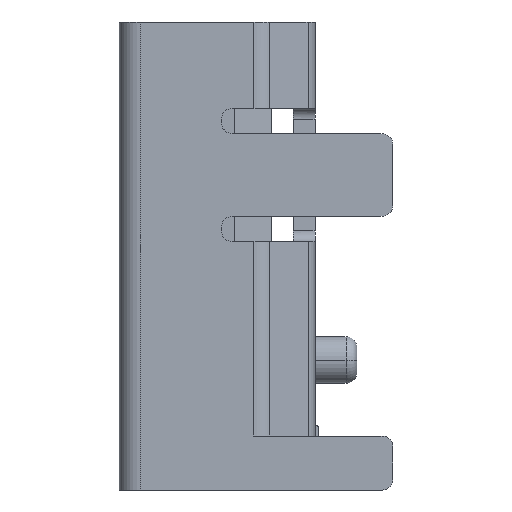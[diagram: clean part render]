
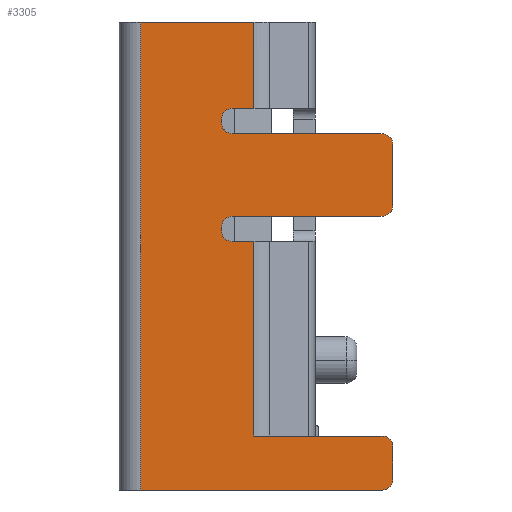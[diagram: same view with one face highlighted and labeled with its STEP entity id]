
A CAD part, left-side view. The second image highlights one B-rep face of the part: STEP entity #3305.
In plain terms, the highlighted planar face has unit normal (-1, 0, 0).
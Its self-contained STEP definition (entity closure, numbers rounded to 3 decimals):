
#1221=CARTESIAN_POINT('Line Origine',(-1.573,-1.176,-5.75)) ;
#1225=CARTESIAN_POINT('Vertex',(-1.573,-0.287,-5.75)) ;
#1227=CARTESIAN_POINT('Vertex',(-1.573,-2.065,-5.75)) ;
#1266=CARTESIAN_POINT('Axis2P3D Location',(-1.573,-2.065,-5.9)) ;
#1270=CARTESIAN_POINT('Vertex',(-1.573,-2.215,-5.9)) ;
#1290=CARTESIAN_POINT('Line Origine',(-1.573,-2.215,-6.125)) ;
#1294=CARTESIAN_POINT('Vertex',(-1.573,-2.215,-6.35)) ;
#1314=CARTESIAN_POINT('Axis2P3D Location',(-1.573,-2.065,-6.35)) ;
#1318=CARTESIAN_POINT('Vertex',(-1.573,-2.065,-6.5)) ;
#1338=CARTESIAN_POINT('Axis2P3D Location',(-1.573,0.015,-1.35)) ;
#1342=CARTESIAN_POINT('Vertex',(-1.573,0.015,-1.2)) ;
#1344=CARTESIAN_POINT('Vertex',(-1.573,0.165,-1.35)) ;
#1391=CARTESIAN_POINT('Vertex',(-1.573,0.015,-2.7)) ;
#1394=CARTESIAN_POINT('Axis2P3D Location',(-1.573,0.015,-2.85)) ;
#1398=CARTESIAN_POINT('Vertex',(-1.573,0.165,-2.85)) ;
#1433=CARTESIAN_POINT('Vertex',(-1.573,0.165,-1.4)) ;
#1436=CARTESIAN_POINT('Axis2P3D Location',(-1.573,0.015,-1.4)) ;
#1440=CARTESIAN_POINT('Vertex',(-1.573,0.015,-1.55)) ;
#1471=CARTESIAN_POINT('Vertex',(-1.573,-2.065,-2.7)) ;
#1474=CARTESIAN_POINT('Line Origine',(-1.573,-1.025,-2.7)) ;
#1491=CARTESIAN_POINT('Line Origine',(-1.573,-1.025,-1.55)) ;
#1495=CARTESIAN_POINT('Vertex',(-1.573,-2.065,-1.55)) ;
#1522=CARTESIAN_POINT('Axis2P3D Location',(-1.573,-2.065,-1.7)) ;
#1526=CARTESIAN_POINT('Vertex',(-1.573,-2.215,-1.7)) ;
#1553=CARTESIAN_POINT('Line Origine',(-1.573,-2.215,-2.125)) ;
#1557=CARTESIAN_POINT('Vertex',(-1.573,-2.215,-2.55)) ;
#1584=CARTESIAN_POINT('Axis2P3D Location',(-1.573,-2.065,-2.55)) ;
#1619=CARTESIAN_POINT('Vertex',(-1.573,0.165,-2.9)) ;
#1622=CARTESIAN_POINT('Axis2P3D Location',(-1.573,0.015,-2.9)) ;
#1626=CARTESIAN_POINT('Vertex',(-1.573,0.015,-3.05)) ;
#2271=CARTESIAN_POINT('Line Origine',(-1.573,-0.136,-1.2)) ;
#2275=CARTESIAN_POINT('Vertex',(-1.573,-0.287,-1.2)) ;
#2367=CARTESIAN_POINT('Line Origine',(-1.573,-0.136,-3.05)) ;
#2371=CARTESIAN_POINT('Vertex',(-1.573,-0.287,-3.05)) ;
#3222=CARTESIAN_POINT('Vertex',(-1.573,1.285,0.)) ;
#3229=CARTESIAN_POINT('Vertex',(-1.573,1.285,-6.5)) ;
#3232=CARTESIAN_POINT('Line Origine',(-1.573,1.285,-6.5)) ;
#3244=CARTESIAN_POINT('Axis2P3D Location',(-1.573,1.285,-6.5)) ;
#3249=CARTESIAN_POINT('Line Origine',(-1.573,0.165,-2.875)) ;
#3254=CARTESIAN_POINT('Line Origine',(-1.573,0.165,-1.375)) ;
#3259=CARTESIAN_POINT('Line Origine',(-1.573,-0.287,-0.6)) ;
#3263=CARTESIAN_POINT('Vertex',(-1.573,-0.287,0.)) ;
#3266=CARTESIAN_POINT('Line Origine',(-1.573,0.499,0.)) ;
#3271=CARTESIAN_POINT('Line Origine',(-1.573,-0.39,-6.5)) ;
#3276=CARTESIAN_POINT('Line Origine',(-1.573,-0.287,-4.4)) ;
#1222=DIRECTION('Vector Direction',(0.,-1.,0.)) ;
#1267=DIRECTION('Axis2P3D Direction',(-1.,0.,0.)) ;
#1291=DIRECTION('Vector Direction',(0.,0.,-1.)) ;
#1315=DIRECTION('Axis2P3D Direction',(-1.,0.,0.)) ;
#1339=DIRECTION('Axis2P3D Direction',(1.,0.,0.)) ;
#1395=DIRECTION('Axis2P3D Direction',(1.,0.,0.)) ;
#1437=DIRECTION('Axis2P3D Direction',(1.,0.,0.)) ;
#1475=DIRECTION('Vector Direction',(0.,1.,0.)) ;
#1492=DIRECTION('Vector Direction',(0.,-1.,0.)) ;
#1523=DIRECTION('Axis2P3D Direction',(-1.,0.,0.)) ;
#1554=DIRECTION('Vector Direction',(0.,0.,-1.)) ;
#1585=DIRECTION('Axis2P3D Direction',(-1.,0.,0.)) ;
#1623=DIRECTION('Axis2P3D Direction',(-1.,0.,0.)) ;
#2272=DIRECTION('Vector Direction',(0.,-1.,0.)) ;
#2368=DIRECTION('Vector Direction',(0.,-1.,0.)) ;
#3233=DIRECTION('Vector Direction',(0.,0.,1.)) ;
#3245=DIRECTION('Axis2P3D Direction',(-1.,0.,0.)) ;
#3246=DIRECTION('Axis2P3D XDirection',(0.,-1.,0.)) ;
#3250=DIRECTION('Vector Direction',(0.,0.,-1.)) ;
#3255=DIRECTION('Vector Direction',(0.,0.,-1.)) ;
#3260=DIRECTION('Vector Direction',(0.,0.,1.)) ;
#3267=DIRECTION('Vector Direction',(0.,-1.,0.)) ;
#3272=DIRECTION('Vector Direction',(0.,-1.,0.)) ;
#3277=DIRECTION('Vector Direction',(0.,0.,1.)) ;
#1268=AXIS2_PLACEMENT_3D('Circle Axis2P3D',#1266,#1267,$) ;
#1316=AXIS2_PLACEMENT_3D('Circle Axis2P3D',#1314,#1315,$) ;
#1340=AXIS2_PLACEMENT_3D('Circle Axis2P3D',#1338,#1339,$) ;
#1396=AXIS2_PLACEMENT_3D('Circle Axis2P3D',#1394,#1395,$) ;
#1438=AXIS2_PLACEMENT_3D('Circle Axis2P3D',#1436,#1437,$) ;
#1524=AXIS2_PLACEMENT_3D('Circle Axis2P3D',#1522,#1523,$) ;
#1586=AXIS2_PLACEMENT_3D('Circle Axis2P3D',#1584,#1585,$) ;
#1624=AXIS2_PLACEMENT_3D('Circle Axis2P3D',#1622,#1623,$) ;
#3247=AXIS2_PLACEMENT_3D('Plane Axis2P3D',#3244,#3245,#3246) ;
#3282=ORIENTED_EDGE('',*,*,#2373,.F.) ;
#3283=ORIENTED_EDGE('',*,*,#1628,.F.) ;
#3284=ORIENTED_EDGE('',*,*,#3253,.F.) ;
#3285=ORIENTED_EDGE('',*,*,#1400,.F.) ;
#3286=ORIENTED_EDGE('',*,*,#1478,.F.) ;
#3287=ORIENTED_EDGE('',*,*,#1588,.F.) ;
#3288=ORIENTED_EDGE('',*,*,#1559,.F.) ;
#3289=ORIENTED_EDGE('',*,*,#1528,.F.) ;
#3290=ORIENTED_EDGE('',*,*,#1497,.F.) ;
#3291=ORIENTED_EDGE('',*,*,#1442,.F.) ;
#3292=ORIENTED_EDGE('',*,*,#3258,.F.) ;
#3293=ORIENTED_EDGE('',*,*,#1346,.F.) ;
#3294=ORIENTED_EDGE('',*,*,#2277,.T.) ;
#3295=ORIENTED_EDGE('',*,*,#3265,.T.) ;
#3296=ORIENTED_EDGE('',*,*,#3270,.F.) ;
#3297=ORIENTED_EDGE('',*,*,#3236,.F.) ;
#3298=ORIENTED_EDGE('',*,*,#3275,.T.) ;
#3299=ORIENTED_EDGE('',*,*,#1320,.F.) ;
#3300=ORIENTED_EDGE('',*,*,#1296,.F.) ;
#3301=ORIENTED_EDGE('',*,*,#1272,.F.) ;
#3302=ORIENTED_EDGE('',*,*,#1229,.F.) ;
#3303=ORIENTED_EDGE('',*,*,#3280,.T.) ;
#1223=VECTOR('Line Direction',#1222,1.) ;
#1292=VECTOR('Line Direction',#1291,1.) ;
#1476=VECTOR('Line Direction',#1475,1.) ;
#1493=VECTOR('Line Direction',#1492,1.) ;
#1555=VECTOR('Line Direction',#1554,1.) ;
#2273=VECTOR('Line Direction',#2272,1.) ;
#2369=VECTOR('Line Direction',#2368,1.) ;
#3234=VECTOR('Line Direction',#3233,1.) ;
#3251=VECTOR('Line Direction',#3250,1.) ;
#3256=VECTOR('Line Direction',#3255,1.) ;
#3261=VECTOR('Line Direction',#3260,1.) ;
#3268=VECTOR('Line Direction',#3267,1.) ;
#3273=VECTOR('Line Direction',#3272,1.) ;
#3278=VECTOR('Line Direction',#3277,1.) ;
#3305=ADVANCED_FACE('',(#3304),#3248,.T.) ;
#1269=CIRCLE('generated circle',#1268,0.15) ;
#1317=CIRCLE('generated circle',#1316,0.15) ;
#1341=CIRCLE('generated circle',#1340,0.15) ;
#1397=CIRCLE('generated circle',#1396,0.15) ;
#1439=CIRCLE('generated circle',#1438,0.15) ;
#1525=CIRCLE('generated circle',#1524,0.15) ;
#1587=CIRCLE('generated circle',#1586,0.15) ;
#1625=CIRCLE('generated circle',#1624,0.15) ;
#1229=EDGE_CURVE('',#1226,#1228,#1224,.T.) ;
#1272=EDGE_CURVE('',#1228,#1271,#1269,.F.) ;
#1296=EDGE_CURVE('',#1271,#1295,#1293,.T.) ;
#1320=EDGE_CURVE('',#1295,#1319,#1317,.F.) ;
#1346=EDGE_CURVE('',#1343,#1345,#1341,.F.) ;
#1400=EDGE_CURVE('',#1392,#1399,#1397,.F.) ;
#1442=EDGE_CURVE('',#1434,#1441,#1439,.F.) ;
#1478=EDGE_CURVE('',#1472,#1392,#1477,.T.) ;
#1497=EDGE_CURVE('',#1441,#1496,#1494,.T.) ;
#1528=EDGE_CURVE('',#1496,#1527,#1525,.F.) ;
#1559=EDGE_CURVE('',#1527,#1558,#1556,.T.) ;
#1588=EDGE_CURVE('',#1558,#1472,#1587,.F.) ;
#1628=EDGE_CURVE('',#1620,#1627,#1625,.T.) ;
#2277=EDGE_CURVE('',#1343,#2276,#2274,.T.) ;
#2373=EDGE_CURVE('',#1627,#2372,#2370,.T.) ;
#3236=EDGE_CURVE('',#3230,#3223,#3235,.T.) ;
#3253=EDGE_CURVE('',#1399,#1620,#3252,.T.) ;
#3258=EDGE_CURVE('',#1345,#1434,#3257,.T.) ;
#3265=EDGE_CURVE('',#2276,#3264,#3262,.T.) ;
#3270=EDGE_CURVE('',#3223,#3264,#3269,.T.) ;
#3275=EDGE_CURVE('',#3230,#1319,#3274,.T.) ;
#3280=EDGE_CURVE('',#1226,#2372,#3279,.T.) ;
#3281=EDGE_LOOP('',(#3282,#3283,#3284,#3285,#3286,#3287,#3288,#3289,#3290,#3291,#3292,#3293,#3294,#3295,#3296,#3297,#3298,#3299,#3300,#3301,#3302,#3303)) ;
#3304=FACE_OUTER_BOUND('',#3281,.T.) ;
#1224=LINE('Line',#1221,#1223) ;
#1293=LINE('Line',#1290,#1292) ;
#1477=LINE('Line',#1474,#1476) ;
#1494=LINE('Line',#1491,#1493) ;
#1556=LINE('Line',#1553,#1555) ;
#2274=LINE('Line',#2271,#2273) ;
#2370=LINE('Line',#2367,#2369) ;
#3235=LINE('Line',#3232,#3234) ;
#3252=LINE('Line',#3249,#3251) ;
#3257=LINE('Line',#3254,#3256) ;
#3262=LINE('Line',#3259,#3261) ;
#3269=LINE('Line',#3266,#3268) ;
#3274=LINE('Line',#3271,#3273) ;
#3279=LINE('Line',#3276,#3278) ;
#3248=PLANE('Plane',#3247) ;
#1226=VERTEX_POINT('',#1225) ;
#1228=VERTEX_POINT('',#1227) ;
#1271=VERTEX_POINT('',#1270) ;
#1295=VERTEX_POINT('',#1294) ;
#1319=VERTEX_POINT('',#1318) ;
#1343=VERTEX_POINT('',#1342) ;
#1345=VERTEX_POINT('',#1344) ;
#1392=VERTEX_POINT('',#1391) ;
#1399=VERTEX_POINT('',#1398) ;
#1434=VERTEX_POINT('',#1433) ;
#1441=VERTEX_POINT('',#1440) ;
#1472=VERTEX_POINT('',#1471) ;
#1496=VERTEX_POINT('',#1495) ;
#1527=VERTEX_POINT('',#1526) ;
#1558=VERTEX_POINT('',#1557) ;
#1620=VERTEX_POINT('',#1619) ;
#1627=VERTEX_POINT('',#1626) ;
#2276=VERTEX_POINT('',#2275) ;
#2372=VERTEX_POINT('',#2371) ;
#3223=VERTEX_POINT('',#3222) ;
#3230=VERTEX_POINT('',#3229) ;
#3264=VERTEX_POINT('',#3263) ;
